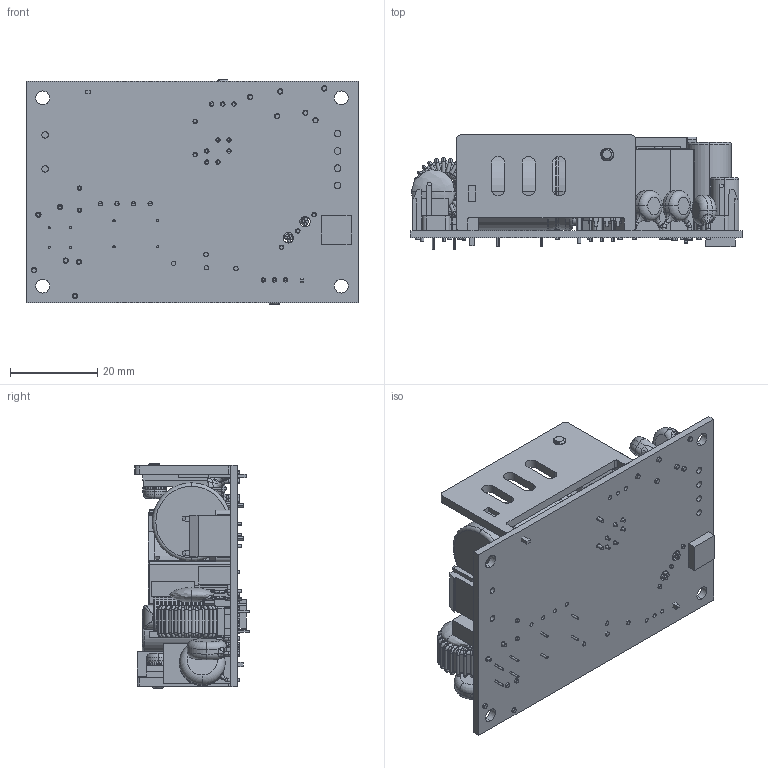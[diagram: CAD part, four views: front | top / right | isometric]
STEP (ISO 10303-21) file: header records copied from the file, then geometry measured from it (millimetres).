
FILE_DESCRIPTION (( 'STEP AP203' ), '1' );
FILE_NAME ('CFM50M(S)XXX ¦¨«~¹Ï M-B127-F (V1.1)-20250310.STEP', '2025-03-10T00:49:37', ( 'cincon' ), ( '' ), 'SwSTEP 2.0', 'SolidWorks 2020', '' );
FILE_SCHEMA (( 'CONFIG_CONTROL_DESIGN' ));
Length unit declared in the file: millimetre
Products named in the file (23): CFM70MXXX  CY1電容示意圖2020.12.11; TR70M 散熱片2 G6612470123 (M-B142-00-J)-1070126; CFM50M(S)XXX 成品圖 M-B127-F (V1.1)-20250310; ､鎹IN-(ｩl)-1070104; ､鎹INA; RM-10-CASE-3P示意圖2020.12.11; CFM80S 散熱片40x22mm  T=2.0mmG6611530412(M-B103-00-J); CFM70MXXX CORE L1示意圖2020.12.11; CFM70MXXX  T2A電容示意圖2020.12.11; CFM70M 3PINｴ｡ｮy(ｵL2PIN)2020.12.11; CFM70M 4PIN插座2020.12.11; CFM70MXXX  CY3電容示意圖2020.12.11; CFM70MXXX變壓器示意圖2020.12.11; CFM70MXXX  CY6電容示意圖2020.12.11; CFM70SXXX PCB示意圖2020.12.15; 18mm,26.mm電容示意圖2020.12.11; CFM70MXXX橋式整流器電晶體示意圖2020.12.14; 電晶體10mm 19.4mm 2020.12.14; CFM70MXXX CORE L2示意圖2020.12.14; CFM70MXXX  Z1電容示意圖2020.12.11; M3螺絲和華司6mm 2020.12.14; CFM80S 散熱片40x22mm  T=2.0mmG6611530412(M-B103-00-J).SLDPRT
Assembly tree (27 placements, depth 3):
  CFM50M(S)XXX 成品圖 M-B127-F (V1.1)-20250310
    CFM70SXXX PCB示意圖2020.12.15
    RM-10-CASE-3P示意圖2020.12.11
    CFM70MXXX變壓器示意圖2020.12.11
    CFM70MXXX CORE L2示意圖2020.12.14
    CFM70M 3PINｴ｡ｮy(ｵL2PIN)2020.12.11
    CFM70M 4PIN插座2020.12.11
    18mm,26.mm電容示意圖2020.12.11
    CFM70MXXX  CY1電容示意圖2020.12.11  x3
    CFM70MXXX  CY3電容示意圖2020.12.11  x2
    CFM70MXXX  CY6電容示意圖2020.12.11
    CFM70MXXX  T2A電容示意圖2020.12.11
    CFM70MXXX  Z1電容示意圖2020.12.11
    CFM70MXXX CORE L1示意圖2020.12.11
    TR70M 散熱片2 G6612470123 (M-B142-00-J)-1070126
      TR70M 散熱片2 G6612470123 (M-B142-00-J)-1070126
      ､鎹IN-(ｩl)-1070104
    M3螺絲和華司6mm 2020.12.14  x2
    電晶體10mm 19.4mm 2020.12.14  x2
    CFM80S 散熱片40x22mm  T=2.0mmG6611530412(M-B103-00-J).SLDPRT
      CFM80S 散熱片40x22mm  T=2.0mmG6611530412(M-B103-00-J)
      ､鎹INA
    CFM70MXXX橋式整流器電晶體示意圖2020.12.14
Bounding box: 76.2 x 26.2 x 51.56 mm (x, y, z)
Volume: 34304.8 mm3; surface area: 40382.8 mm2
Topology: 111 solids, 142 shells, 2492 faces, 6255 edges, 4069 vertices
Faces by surface type: cylinder 1087, plane 916, torus 357, bspline 108, cone 24
Entity records: 80525 total; most frequent: CARTESIAN_POINT 21152, DIRECTION 12767, ORIENTED_EDGE 11412, EDGE_CURVE 5710, AXIS2_PLACEMENT_3D 5144, VERTEX_POINT 3734, CIRCLE 2899, EDGE_LOOP 2612
